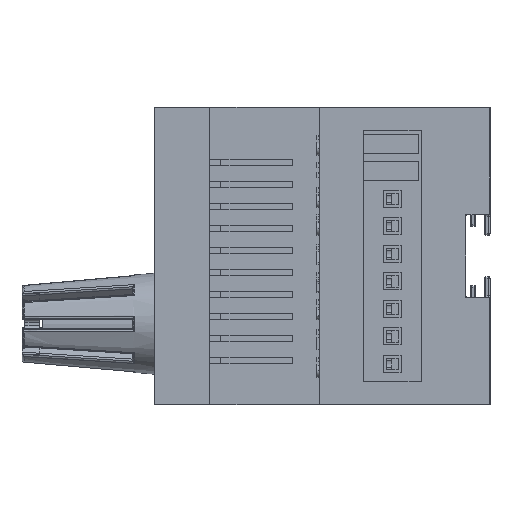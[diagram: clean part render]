
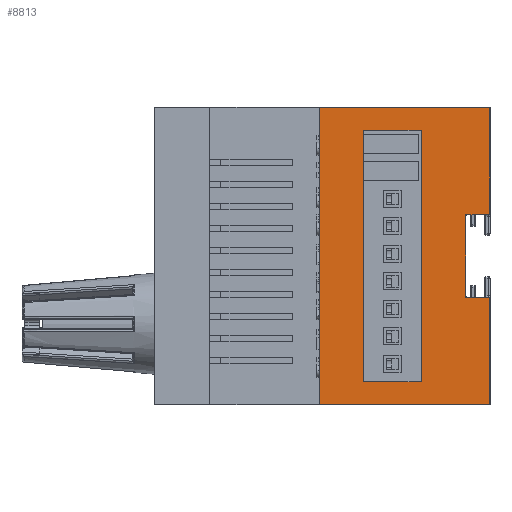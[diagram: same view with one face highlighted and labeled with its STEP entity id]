
A CAD part, left-side view. The second image highlights one B-rep face of the part: STEP entity #8813.
In plain terms, the highlighted planar face has unit normal (-1, 0, 0).
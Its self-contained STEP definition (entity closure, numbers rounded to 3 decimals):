
#5 = CARTESIAN_POINT ( 'NONE',  ( -44.75, 0., 22.8 ) ) ;
#21 = CARTESIAN_POINT ( 'NONE',  ( -44.75, 0., 27. ) ) ;
#746 = LINE ( 'NONE', #39372, #68851 ) ;
#1583 = EDGE_CURVE ( 'NONE', #81776, #20854, #29537, .T. ) ;
#4161 = EDGE_CURVE ( 'NONE', #66161, #66809, #38088, .T. ) ;
#4911 = ORIENTED_EDGE ( 'NONE', *, *, #69088, .F. ) ;
#6230 = ORIENTED_EDGE ( 'NONE', *, *, #1583, .T. ) ;
#6350 = LINE ( 'NONE', #5, #55316 ) ;
#6369 = LINE ( 'NONE', #21, #46840 ) ;
#7682 = CARTESIAN_POINT ( 'NONE',  ( -44.75, 10.5, 22.8 ) ) ;
#7952 = CARTESIAN_POINT ( 'NONE',  ( -44.75, 10.5, 22.8 ) ) ;
#8234 = VERTEX_POINT ( 'NONE', #16210 ) ;
#8751 = DIRECTION ( 'NONE',  ( -1., 0., 0. ) ) ;
#8813 = ADVANCED_FACE ( 'NONE', ( #73284, #21052 ), #9166, .T. ) ;
#9166 = PLANE ( 'NONE',  #9914 ) ;
#9914 = AXIS2_PLACEMENT_3D ( 'NONE', #14711, #8751, #14266 ) ;
#11092 = DIRECTION ( 'NONE',  ( 0., 0., 1. ) ) ;
#11533 = EDGE_CURVE ( 'NONE', #18119, #65750, #78577, .T. ) ;
#11684 = VERTEX_POINT ( 'NONE', #25021 ) ;
#11833 = DIRECTION ( 'NONE',  ( 0., 0., 1. ) ) ;
#12073 = VECTOR ( 'NONE', #13708, 1000. ) ;
#13708 = DIRECTION ( 'NONE',  ( 0., 1., 0. ) ) ;
#14266 = DIRECTION ( 'NONE',  ( 0., 0., 1. ) ) ;
#14711 = CARTESIAN_POINT ( 'NONE',  ( -44.75, 0., -117.369 ) ) ;
#15701 = VERTEX_POINT ( 'NONE', #54102 ) ;
#16177 = ORIENTED_EDGE ( 'NONE', *, *, #65624, .T. ) ;
#16210 = CARTESIAN_POINT ( 'NONE',  ( -44.75, -8.1, -7.5 ) ) ;
#16370 = ORIENTED_EDGE ( 'NONE', *, *, #4161, .T. ) ;
#16438 = DIRECTION ( 'NONE',  ( 0., 1., 0. ) ) ;
#16861 = EDGE_CURVE ( 'NONE', #66809, #57103, #76549, .T. ) ;
#18117 = CARTESIAN_POINT ( 'NONE',  ( -44.75, -12.5, -7.5 ) ) ;
#18119 = VERTEX_POINT ( 'NONE', #33932 ) ;
#19283 = ORIENTED_EDGE ( 'NONE', *, *, #54272, .F. ) ;
#19884 = CARTESIAN_POINT ( 'NONE',  ( -44.75, 0., -117.369 ) ) ;
#20854 = VERTEX_POINT ( 'NONE', #54561 ) ;
#21052 = FACE_OUTER_BOUND ( 'NONE', #61962, .T. ) ;
#23671 = CARTESIAN_POINT ( 'NONE',  ( -44.75, -12.25, 7.75 ) ) ;
#25021 = CARTESIAN_POINT ( 'NONE',  ( -44.75, -8.1, 7.5 ) ) ;
#25056 = CARTESIAN_POINT ( 'NONE',  ( -44.75, -8.1, 7.5 ) ) ;
#25873 = DIRECTION ( 'NONE',  ( 0., -1., 0. ) ) ;
#26894 = CARTESIAN_POINT ( 'NONE',  ( -44.75, -12.5, 27. ) ) ;
#28659 = CARTESIAN_POINT ( 'NONE',  ( -44.75, -12.5, -27. ) ) ;
#29228 = CARTESIAN_POINT ( 'NONE',  ( -44.75, 0., -27. ) ) ;
#29322 = VECTOR ( 'NONE', #11092, 1000. ) ;
#29537 = LINE ( 'NONE', #62658, #54139 ) ;
#29775 = VERTEX_POINT ( 'NONE', #35499 ) ;
#30581 = EDGE_CURVE ( 'NONE', #11684, #66161, #746, .T. ) ;
#32203 = EDGE_CURVE ( 'NONE', #15701, #18119, #53611, .T. ) ;
#32388 = DIRECTION ( 'NONE',  ( 0., 0., 1. ) ) ;
#33932 = CARTESIAN_POINT ( 'NONE',  ( -44.75, 10.5, -22.8 ) ) ;
#35499 = CARTESIAN_POINT ( 'NONE',  ( -44.75, -12.5, -7.5 ) ) ;
#35611 = DIRECTION ( 'NONE',  ( 0., 1., 0. ) ) ;
#35961 = ORIENTED_EDGE ( 'NONE', *, *, #16861, .T. ) ;
#36053 = VECTOR ( 'NONE', #16438, 1000. ) ;
#36407 = LINE ( 'NONE', #18117, #36053 ) ;
#38088 = CIRCLE ( 'NONE', #50323, 0.25 ) ;
#38214 = LINE ( 'NONE', #19884, #43853 ) ;
#39372 = CARTESIAN_POINT ( 'NONE',  ( -44.75, -12.5, 7.5 ) ) ;
#40170 = EDGE_LOOP ( 'NONE', ( #53140, #42731, #78895, #70388 ) ) ;
#40184 = ORIENTED_EDGE ( 'NONE', *, *, #30581, .T. ) ;
#42731 = ORIENTED_EDGE ( 'NONE', *, *, #32203, .T. ) ;
#43853 = VECTOR ( 'NONE', #70460, 1000. ) ;
#45583 = VECTOR ( 'NONE', #32388, 1000. ) ;
#46840 = VECTOR ( 'NONE', #25873, 1000. ) ;
#49581 = DIRECTION ( 'NONE',  ( -1., 0., 0. ) ) ;
#50288 = CARTESIAN_POINT ( 'NONE',  ( -44.75, 18.48, 27. ) ) ;
#50323 = AXIS2_PLACEMENT_3D ( 'NONE', #23671, #49581, #69107 ) ;
#50417 = EDGE_CURVE ( 'NONE', #65750, #57574, #6350, .T. ) ;
#50515 = VECTOR ( 'NONE', #11833, 1000. ) ;
#50887 = LINE ( 'NONE', #69968, #50515 ) ;
#52194 = ORIENTED_EDGE ( 'NONE', *, *, #77294, .T. ) ;
#53018 = DIRECTION ( 'NONE',  ( 0., -1., 0. ) ) ;
#53140 = ORIENTED_EDGE ( 'NONE', *, *, #73511, .F. ) ;
#53611 = LINE ( 'NONE', #71863, #12073 ) ;
#54102 = CARTESIAN_POINT ( 'NONE',  ( -44.75, 0., -22.8 ) ) ;
#54139 = VECTOR ( 'NONE', #61798, 1000. ) ;
#54272 = EDGE_CURVE ( 'NONE', #64784, #20854, #61930, .T. ) ;
#54561 = CARTESIAN_POINT ( 'NONE',  ( -44.75, 18.48, -27. ) ) ;
#55316 = VECTOR ( 'NONE', #53018, 1000. ) ;
#57103 = VERTEX_POINT ( 'NONE', #26894 ) ;
#57574 = VERTEX_POINT ( 'NONE', #76420 ) ;
#58614 = CARTESIAN_POINT ( 'NONE',  ( -44.75, -12.5, 7.75 ) ) ;
#60793 = ORIENTED_EDGE ( 'NONE', *, *, #79952, .T. ) ;
#61798 = DIRECTION ( 'NONE',  ( 0., 0., -1. ) ) ;
#61930 = LINE ( 'NONE', #29228, #78787 ) ;
#61962 = EDGE_LOOP ( 'NONE', ( #40184, #16370, #35961, #4911, #6230, #19283, #16177, #52194, #60793 ) ) ;
#62464 = LINE ( 'NONE', #25056, #29322 ) ;
#62658 = CARTESIAN_POINT ( 'NONE',  ( -44.75, 18.48, 27. ) ) ;
#64784 = VERTEX_POINT ( 'NONE', #28659 ) ;
#65624 = EDGE_CURVE ( 'NONE', #64784, #29775, #50887, .T. ) ;
#65750 = VERTEX_POINT ( 'NONE', #7952 ) ;
#65962 = VECTOR ( 'NONE', #72613, 1000. ) ;
#66161 = VERTEX_POINT ( 'NONE', #67262 ) ;
#66809 = VERTEX_POINT ( 'NONE', #58614 ) ;
#67262 = CARTESIAN_POINT ( 'NONE',  ( -44.75, -12.25, 7.5 ) ) ;
#68851 = VECTOR ( 'NONE', #71620, 1000. ) ;
#69088 = EDGE_CURVE ( 'NONE', #81776, #57103, #6369, .T. ) ;
#69107 = DIRECTION ( 'NONE',  ( 0., 0., 1. ) ) ;
#69968 = CARTESIAN_POINT ( 'NONE',  ( -44.75, -12.5, -117.369 ) ) ;
#70388 = ORIENTED_EDGE ( 'NONE', *, *, #50417, .T. ) ;
#70460 = DIRECTION ( 'NONE',  ( 0., 0., 1. ) ) ;
#71620 = DIRECTION ( 'NONE',  ( 0., -1., 0. ) ) ;
#71863 = CARTESIAN_POINT ( 'NONE',  ( -44.75, 0., -22.8 ) ) ;
#72613 = DIRECTION ( 'NONE',  ( 0., 0., 1. ) ) ;
#73284 = FACE_BOUND ( 'NONE', #40170, .T. ) ;
#73511 = EDGE_CURVE ( 'NONE', #15701, #57574, #38214, .T. ) ;
#76420 = CARTESIAN_POINT ( 'NONE',  ( -44.75, 0., 22.8 ) ) ;
#76549 = LINE ( 'NONE', #83327, #45583 ) ;
#77294 = EDGE_CURVE ( 'NONE', #29775, #8234, #36407, .T. ) ;
#78577 = LINE ( 'NONE', #7682, #65962 ) ;
#78787 = VECTOR ( 'NONE', #35611, 1000. ) ;
#78895 = ORIENTED_EDGE ( 'NONE', *, *, #11533, .T. ) ;
#79952 = EDGE_CURVE ( 'NONE', #8234, #11684, #62464, .T. ) ;
#81776 = VERTEX_POINT ( 'NONE', #50288 ) ;
#83327 = CARTESIAN_POINT ( 'NONE',  ( -44.75, -12.5, -117.369 ) ) ;
